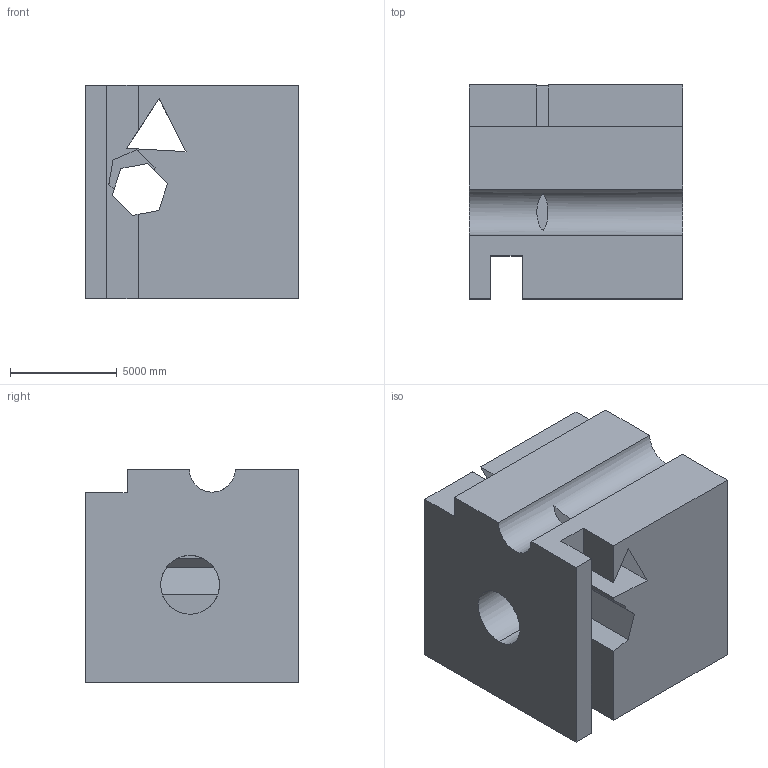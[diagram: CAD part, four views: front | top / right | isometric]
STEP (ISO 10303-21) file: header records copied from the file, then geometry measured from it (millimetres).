
FILE_DESCRIPTION (( 'STEP AP203' ), '1' );
FILE_NAME ('1681.STEP', '2022-08-19T11:40:38', ( 'user' ), ( '' ), 'SwSTEP 2.0', 'SolidWorks 2021', '' );
FILE_SCHEMA (( 'CONFIG_CONTROL_DESIGN' ));
Length unit declared in the file: centimetre
Products named in the file (1): 1681
Bounding box: 10000 x 10000 x 10000 mm (x, y, z)
Volume: 838758839716 mm3; surface area: 774246562.4 mm2
Topology: 1 solids, 1 shells, 41 faces, 129 edges, 86 vertices
Faces by surface type: plane 36, cylinder 5
Entity records: 1504 total; most frequent: CARTESIAN_POINT 299, ORIENTED_EDGE 258, DIRECTION 207, EDGE_CURVE 129, VECTOR 107, LINE 107, VERTEX_POINT 86, AXIS2_PLACEMENT_3D 50
